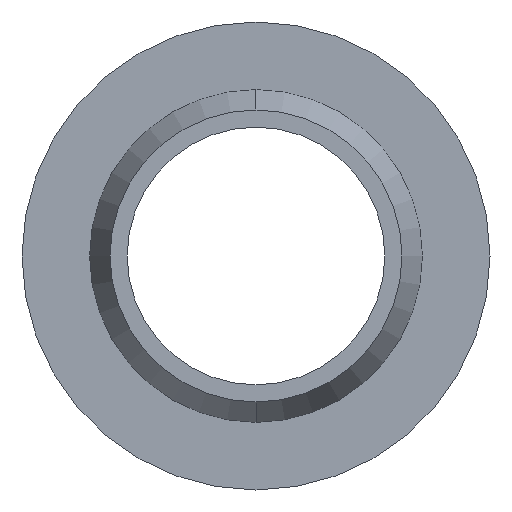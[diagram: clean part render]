
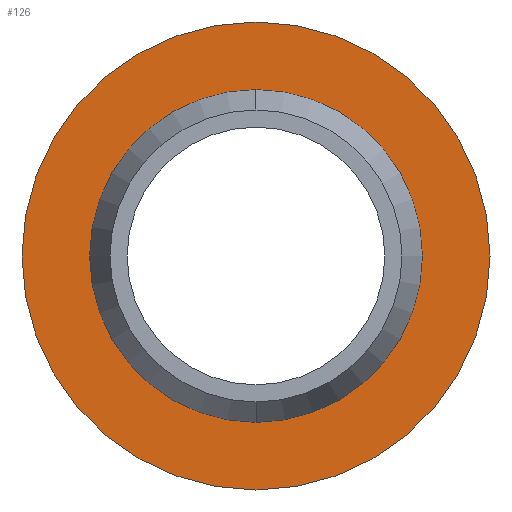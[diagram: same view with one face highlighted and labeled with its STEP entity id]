
A CAD part, left-side view. The second image highlights one B-rep face of the part: STEP entity #126.
In plain terms, the highlighted planar face has unit normal (-1, 0, 0).
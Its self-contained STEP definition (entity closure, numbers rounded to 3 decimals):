
#1 = CARTESIAN_POINT ( 'NONE',  ( 2., 0., 0. ) ) ;
#2 = DIRECTION ( 'NONE',  ( -1., 0., 0. ) ) ;
#3 = DIRECTION ( 'NONE',  ( 0., 0., 1. ) ) ;
#9 = AXIS2_PLACEMENT_3D ( 'NONE', #1, #2, #3 ) ;
#10 = CIRCLE ( 'NONE', #9, 10.9 ) ;
#55 = CARTESIAN_POINT ( 'NONE',  ( 2., 0., 10.9 ) ) ;
#117 = ORIENTED_EDGE ( 'NONE', *, *, #173, .T. ) ;
#118 = ORIENTED_EDGE ( 'NONE', *, *, #185, .F. ) ;
#126 = ADVANCED_FACE ( 'NONE', ( #322, #320 ), #321, .F. ) ;
#132 = ORIENTED_EDGE ( 'NONE', *, *, #198, .T. ) ;
#135 = EDGE_LOOP ( 'NONE', ( #118, #181 ) ) ;
#173 = EDGE_CURVE ( 'NONE', #188, #207, #374, .T. ) ;
#181 = ORIENTED_EDGE ( 'NONE', *, *, #255, .F. ) ;
#182 = EDGE_LOOP ( 'NONE', ( #132, #117 ) ) ;
#185 = EDGE_CURVE ( 'NONE', #253, #257, #359, .T. ) ;
#188 = VERTEX_POINT ( 'NONE', #361 ) ;
#198 = EDGE_CURVE ( 'NONE', #207, #188, #10, .T. ) ;
#207 = VERTEX_POINT ( 'NONE', #55 ) ;
#253 = VERTEX_POINT ( 'NONE', #390 ) ;
#255 = EDGE_CURVE ( 'NONE', #257, #253, #438, .T. ) ;
#257 = VERTEX_POINT ( 'NONE', #431 ) ;
#267 = CARTESIAN_POINT ( 'NONE',  ( 2., 10.9, 0. ) ) ;
#278 = DIRECTION ( 'NONE',  ( 1., 0., 0. ) ) ;
#280 = AXIS2_PLACEMENT_3D ( 'NONE', #267, #278, #315 ) ;
#315 = DIRECTION ( 'NONE',  ( 0., 0., -1. ) ) ;
#320 = FACE_OUTER_BOUND ( 'NONE', #182, .T. ) ;
#321 = PLANE ( 'NONE',  #280 ) ;
#322 = FACE_BOUND ( 'NONE', #135, .T. ) ;
#355 = DIRECTION ( 'NONE',  ( 0., 0., 1. ) ) ;
#356 = DIRECTION ( 'NONE',  ( -1., 0., 0. ) ) ;
#357 = CARTESIAN_POINT ( 'NONE',  ( 2., 0., 0. ) ) ;
#358 = AXIS2_PLACEMENT_3D ( 'NONE', #357, #356, #355 ) ;
#359 = CIRCLE ( 'NONE', #358, 7.75 ) ;
#361 = CARTESIAN_POINT ( 'NONE',  ( 2., 0., -10.9 ) ) ;
#369 = DIRECTION ( 'NONE',  ( 0., 0., 1. ) ) ;
#370 = DIRECTION ( 'NONE',  ( -1., 0., 0. ) ) ;
#371 = CARTESIAN_POINT ( 'NONE',  ( 2., 0., 0. ) ) ;
#373 = AXIS2_PLACEMENT_3D ( 'NONE', #371, #370, #369 ) ;
#374 = CIRCLE ( 'NONE', #373, 10.9 ) ;
#386 = CARTESIAN_POINT ( 'NONE',  ( 2., 0., 0. ) ) ;
#390 = CARTESIAN_POINT ( 'NONE',  ( 2., 0., -7.75 ) ) ;
#405 = AXIS2_PLACEMENT_3D ( 'NONE', #386, #428, #427 ) ;
#427 = DIRECTION ( 'NONE',  ( 0., 0., 1. ) ) ;
#428 = DIRECTION ( 'NONE',  ( -1., 0., 0. ) ) ;
#431 = CARTESIAN_POINT ( 'NONE',  ( 2., 0., 7.75 ) ) ;
#438 = CIRCLE ( 'NONE', #405, 7.75 ) ;
